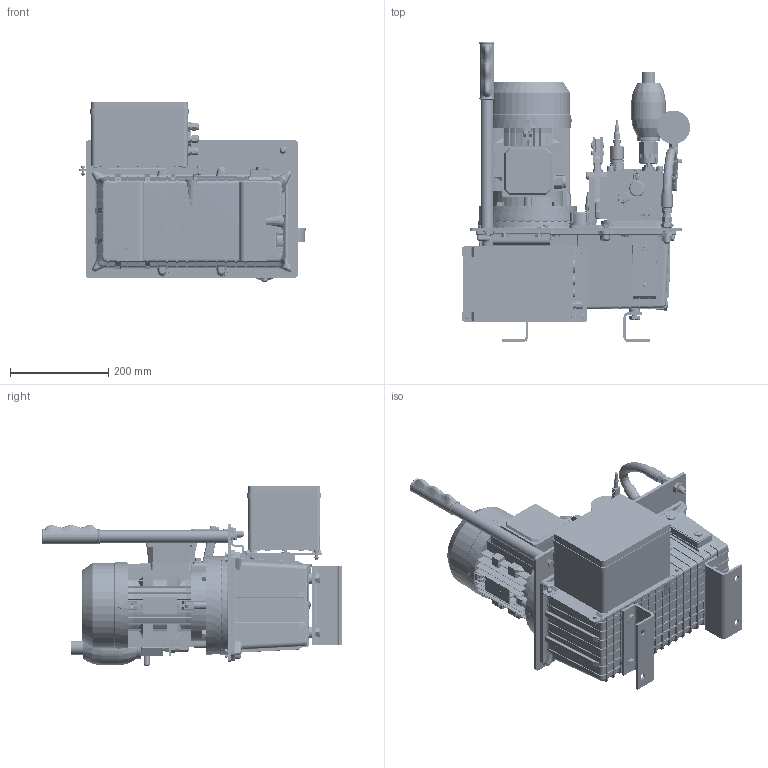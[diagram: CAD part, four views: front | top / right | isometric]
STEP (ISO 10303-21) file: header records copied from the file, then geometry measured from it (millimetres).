
FILE_DESCRIPTION(/* description */ (''),/* implementation_level */ '2;1');
FILE_NAME(/* name */ 'C:\Users\nemgal01\Desktop\STEP\73145.stp',/* time_stamp */ '2017-03-09T12:28:42+01:00',/* author */ ('nemgal01'),/* organization */ (''),/* preprocessor_version */ 'ST-DEVELOPER v16.1',/* originating_system */ 'Autodesk Inventor 2016',/* authorisation */ '');
FILE_SCHEMA (('AUTOMOTIVE_DESIGN { 1 0 10303 214 3 1 1 }'));
Products named in the file (1): Assembly6WE_Shrinkwrap_1
Bounding box: 464.18 x 609.2 x 365.46 mm (x, y, z)
Volume: 25463707.3 mm3; surface area: 1414635.7 mm2
Topology: 1 solids, 11 shells, 6798 faces, 17879 edges, 11418 vertices
Faces by surface type: plane 3855, cylinder 1469, cone 633, bspline 584, torus 241, sphere 16
Full cylindrical faces by diameter (mm): 5 x13, 5.459 x8, 6 x1, 6.299 x1, 7.323 x3, 7.544 x1, 7.7 x1, 8 x14, 8.376 x1, 8.5 x5, 8.7 x8, 8.89 x1, 8.967 x4, 9 x8, 9.188 x4, 9.2 x2, 9.42 x1, 9.5 x1, 9.6 x4, 9.954 x1, 10 x29, 10.773 x1, 10.973 x1, 11.053 x4, 11.11 x1, 11.12 x1, 11.15 x1, 11.4 x3, 11.445 x1, 12 x2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
Entity records: 239042 total; most frequent: CARTESIAN_POINT 70892, ORIENTED_EDGE 34550, DIRECTION 32145, EDGE_CURVE 17266, AXIS2_PLACEMENT_3D 11301, VERTEX_POINT 11265, LINE 9543, VECTOR 9543
